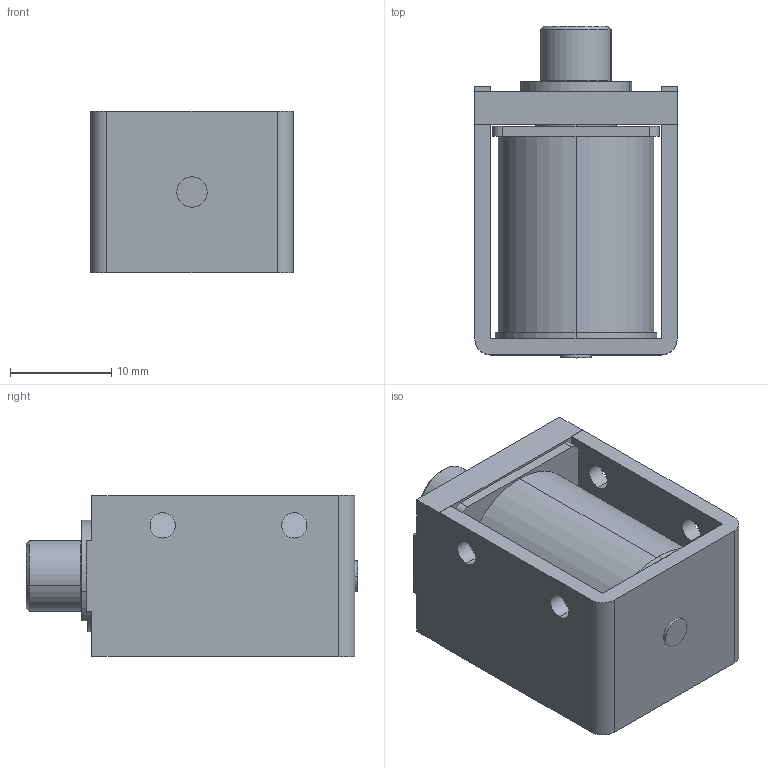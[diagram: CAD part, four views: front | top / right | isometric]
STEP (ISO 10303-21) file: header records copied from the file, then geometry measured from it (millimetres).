
FILE_DESCRIPTION (( 'STEP AP203' ), '1' );
FILE_NAME ('w_ca0726.STEP', '2014-07-11T03:12:21', ( 'jiba' ), ( 'Hewlett-Packard Company' ), 'SwSTEP 2.0', 'SolidWorks 2014', '' );
FILE_SCHEMA (( 'CONFIG_CONTROL_DESIGN' ));
Length unit declared in the file: millimetre
Products named in the file (4): Part2^w_ca0726; Part6^w_ca0726_pl; w_ca0726_pl; w_ca0726
Assembly tree (3 placements, depth 3):
  w_ca0726
    Part2^w_ca0726
    w_ca0726_pl
      Part6^w_ca0726_pl
Bounding box: 20 x 32.8 x 16 mm (x, y, z)
Volume: 6811.1 mm3; surface area: 5638.4 mm2
Topology: 2 solids, 2 shells, 117 faces, 311 edges, 198 vertices
Faces by surface type: cylinder 57, plane 54, cone 6
Entity records: 4106 total; most frequent: DIRECTION 696, CARTESIAN_POINT 634, ORIENTED_EDGE 618, EDGE_CURVE 309, AXIS2_PLACEMENT_3D 264, VERTEX_POINT 198, VECTOR 168, LINE 168
